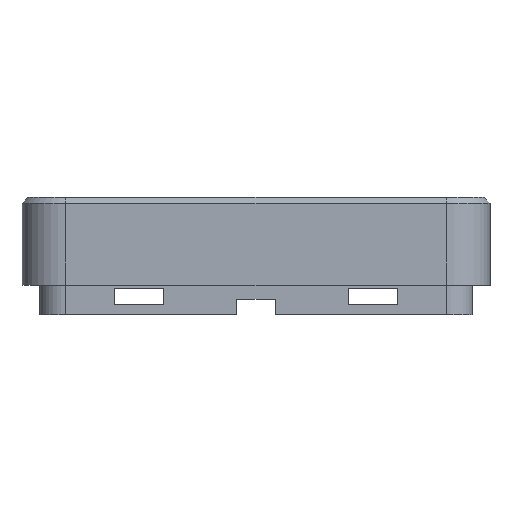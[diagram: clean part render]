
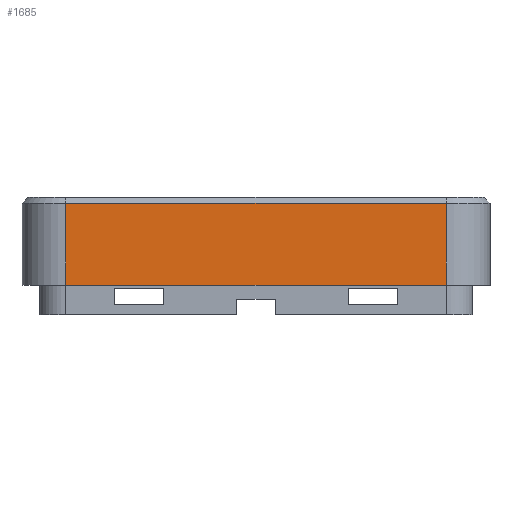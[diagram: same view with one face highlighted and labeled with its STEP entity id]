
A CAD part, front view. The second image highlights one B-rep face of the part: STEP entity #1685.
In plain terms, the highlighted planar face has unit normal (0, -1, 0).
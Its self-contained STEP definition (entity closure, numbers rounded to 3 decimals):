
#44 = CYLINDRICAL_SURFACE('',#45,6.);
#45 = AXIS2_PLACEMENT_3D('',#46,#47,#48);
#46 = CARTESIAN_POINT('',(-26.,-36.,16.));
#47 = DIRECTION('',(0.,0.,1.));
#48 = DIRECTION('',(-1.,-0.,0.));
#72 = PLANE('',#73);
#73 = AXIS2_PLACEMENT_3D('',#74,#75,#76);
#74 = CARTESIAN_POINT('',(-32.,-42.,16.));
#75 = DIRECTION('',(0.,0.,1.));
#76 = DIRECTION('',(1.,0.,0.));
#365 = VERTEX_POINT('',#366);
#366 = CARTESIAN_POINT('',(-26.,-42.,16.));
#388 = EDGE_CURVE('',#365,#389,#391,.T.);
#389 = VERTEX_POINT('',#390);
#390 = CARTESIAN_POINT('',(-26.,-42.,27.2));
#391 = SURFACE_CURVE('',#392,(#396,#403),.PCURVE_S1.);
#392 = LINE('',#393,#394);
#393 = CARTESIAN_POINT('',(-26.,-42.,16.));
#394 = VECTOR('',#395,1.);
#395 = DIRECTION('',(0.,0.,1.));
#396 = PCURVE('',#44,#397);
#397 = DEFINITIONAL_REPRESENTATION('',(#398),#402);
#398 = LINE('',#399,#400);
#399 = CARTESIAN_POINT('',(1.571,0.));
#400 = VECTOR('',#401,1.);
#401 = DIRECTION('',(0.,1.));
#402 = ( GEOMETRIC_REPRESENTATION_CONTEXT(2) 
PARAMETRIC_REPRESENTATION_CONTEXT() REPRESENTATION_CONTEXT('2D SPACE',''
  ) );
#403 = PCURVE('',#404,#409);
#404 = PLANE('',#405);
#405 = AXIS2_PLACEMENT_3D('',#406,#407,#408);
#406 = CARTESIAN_POINT('',(-32.,-42.,16.));
#407 = DIRECTION('',(0.,1.,0.));
#408 = DIRECTION('',(0.,0.,1.));
#409 = DEFINITIONAL_REPRESENTATION('',(#410),#414);
#410 = LINE('',#411,#412);
#411 = CARTESIAN_POINT('',(0.,6.));
#412 = VECTOR('',#413,1.);
#413 = DIRECTION('',(1.,0.));
#414 = ( GEOMETRIC_REPRESENTATION_CONTEXT(2) 
PARAMETRIC_REPRESENTATION_CONTEXT() REPRESENTATION_CONTEXT('2D SPACE',''
  ) );
#448 = EDGE_CURVE('',#365,#449,#451,.T.);
#449 = VERTEX_POINT('',#450);
#450 = CARTESIAN_POINT('',(26.,-42.,16.));
#451 = SURFACE_CURVE('',#452,(#456,#463),.PCURVE_S1.);
#452 = LINE('',#453,#454);
#453 = CARTESIAN_POINT('',(-32.,-42.,16.));
#454 = VECTOR('',#455,1.);
#455 = DIRECTION('',(1.,0.,0.));
#456 = PCURVE('',#72,#457);
#457 = DEFINITIONAL_REPRESENTATION('',(#458),#462);
#458 = LINE('',#459,#460);
#459 = CARTESIAN_POINT('',(0.,0.));
#460 = VECTOR('',#461,1.);
#461 = DIRECTION('',(1.,0.));
#462 = ( GEOMETRIC_REPRESENTATION_CONTEXT(2) 
PARAMETRIC_REPRESENTATION_CONTEXT() REPRESENTATION_CONTEXT('2D SPACE',''
  ) );
#463 = PCURVE('',#404,#464);
#464 = DEFINITIONAL_REPRESENTATION('',(#465),#469);
#465 = LINE('',#466,#467);
#466 = CARTESIAN_POINT('',(0.,0.));
#467 = VECTOR('',#468,1.);
#468 = DIRECTION('',(0.,1.));
#469 = ( GEOMETRIC_REPRESENTATION_CONTEXT(2) 
PARAMETRIC_REPRESENTATION_CONTEXT() REPRESENTATION_CONTEXT('2D SPACE',''
  ) );
#492 = CYLINDRICAL_SURFACE('',#493,6.);
#493 = AXIS2_PLACEMENT_3D('',#494,#495,#496);
#494 = CARTESIAN_POINT('',(26.,-36.,16.));
#495 = DIRECTION('',(0.,0.,1.));
#496 = DIRECTION('',(1.,0.,-0.));
#1685 = ADVANCED_FACE('',(#1686),#404,.F.);
#1686 = FACE_BOUND('',#1687,.F.);
#1687 = EDGE_LOOP('',(#1688,#1689,#1690,#1718));
#1688 = ORIENTED_EDGE('',*,*,#448,.F.);
#1689 = ORIENTED_EDGE('',*,*,#388,.T.);
#1690 = ORIENTED_EDGE('',*,*,#1691,.F.);
#1691 = EDGE_CURVE('',#1692,#389,#1694,.T.);
#1692 = VERTEX_POINT('',#1693);
#1693 = CARTESIAN_POINT('',(26.,-42.,27.2));
#1694 = SURFACE_CURVE('',#1695,(#1699,#1706),.PCURVE_S1.);
#1695 = LINE('',#1696,#1697);
#1696 = CARTESIAN_POINT('',(26.,-42.,27.2));
#1697 = VECTOR('',#1698,1.);
#1698 = DIRECTION('',(-1.,-0.,-0.));
#1699 = PCURVE('',#404,#1700);
#1700 = DEFINITIONAL_REPRESENTATION('',(#1701),#1705);
#1701 = LINE('',#1702,#1703);
#1702 = CARTESIAN_POINT('',(11.2,58.));
#1703 = VECTOR('',#1704,1.);
#1704 = DIRECTION('',(0.,-1.));
#1705 = ( GEOMETRIC_REPRESENTATION_CONTEXT(2) 
PARAMETRIC_REPRESENTATION_CONTEXT() REPRESENTATION_CONTEXT('2D SPACE',''
  ) );
#1706 = PCURVE('',#1707,#1712);
#1707 = PLANE('',#1708);
#1708 = AXIS2_PLACEMENT_3D('',#1709,#1710,#1711);
#1709 = CARTESIAN_POINT('',(26.,-41.6,27.6));
#1710 = DIRECTION('',(0.,0.707,-0.707)
  );
#1711 = DIRECTION('',(1.,0.,0.));
#1712 = DEFINITIONAL_REPRESENTATION('',(#1713),#1717);
#1713 = LINE('',#1714,#1715);
#1714 = CARTESIAN_POINT('',(-0.,0.566));
#1715 = VECTOR('',#1716,1.);
#1716 = DIRECTION('',(-1.,0.));
#1717 = ( GEOMETRIC_REPRESENTATION_CONTEXT(2) 
PARAMETRIC_REPRESENTATION_CONTEXT() REPRESENTATION_CONTEXT('2D SPACE',''
  ) );
#1718 = ORIENTED_EDGE('',*,*,#1719,.F.);
#1719 = EDGE_CURVE('',#449,#1692,#1720,.T.);
#1720 = SURFACE_CURVE('',#1721,(#1725,#1732),.PCURVE_S1.);
#1721 = LINE('',#1722,#1723);
#1722 = CARTESIAN_POINT('',(26.,-42.,16.));
#1723 = VECTOR('',#1724,1.);
#1724 = DIRECTION('',(0.,0.,1.));
#1725 = PCURVE('',#404,#1726);
#1726 = DEFINITIONAL_REPRESENTATION('',(#1727),#1731);
#1727 = LINE('',#1728,#1729);
#1728 = CARTESIAN_POINT('',(0.,58.));
#1729 = VECTOR('',#1730,1.);
#1730 = DIRECTION('',(1.,0.));
#1731 = ( GEOMETRIC_REPRESENTATION_CONTEXT(2) 
PARAMETRIC_REPRESENTATION_CONTEXT() REPRESENTATION_CONTEXT('2D SPACE',''
  ) );
#1732 = PCURVE('',#492,#1733);
#1733 = DEFINITIONAL_REPRESENTATION('',(#1734),#1738);
#1734 = LINE('',#1735,#1736);
#1735 = CARTESIAN_POINT('',(-1.571,0.));
#1736 = VECTOR('',#1737,1.);
#1737 = DIRECTION('',(-0.,1.));
#1738 = ( GEOMETRIC_REPRESENTATION_CONTEXT(2) 
PARAMETRIC_REPRESENTATION_CONTEXT() REPRESENTATION_CONTEXT('2D SPACE',''
  ) );
